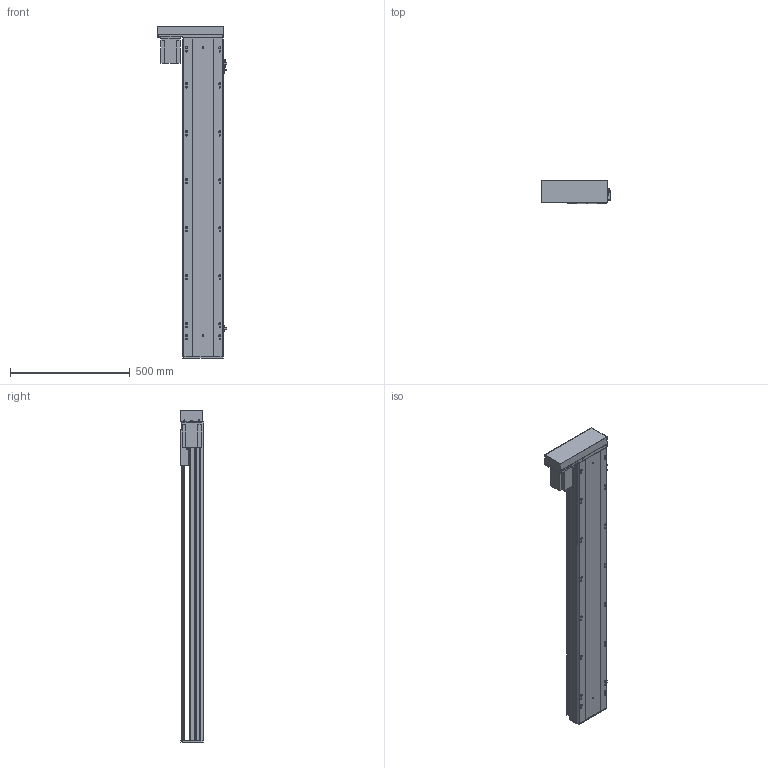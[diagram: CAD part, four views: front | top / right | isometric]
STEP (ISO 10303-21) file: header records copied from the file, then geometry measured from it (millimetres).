
FILE_DESCRIPTION (( 'STEP AP203' ), '1' );
FILE_NAME ('Y170-D10-S1100-BL-P750W.STEP', '2020-01-19T23:10:59', ( '微软用户' ), ( '微软中国' ), 'SwSTEP 2.0', 'SolidWorks 2017', '' );
FILE_SCHEMA (( 'CONFIG_CONTROL_DESIGN' ));
Length unit declared in the file: millimetre
Products named in the file (12): Y170-D10-S1100-BL-P750W; 170--掛极-BR; Y170-BL-P750W楊擘啣; 侂狟750W; EGH20賑輸_蕼偞; Y雄赽釱-耜蚾; Y-BL.BR-俋欶; Y170耜裔--準---; Y170-陔遴奻裔-BR; YD-Y100-135-新外置传感挡片(通用）; Y--BL蟀諉啣-陔遴-; Y100-135俋离換覜ん
Assembly tree (14 placements, depth 2):
  Y170-D10-S1100-BL-P750W
    Y170耜裔--準---
    YD-Y100-135-新外置传感挡片(通用）
    Y100-135俋离換覜ん  x3
    170--掛极-BR
    Y170-BL-P750W楊擘啣
    侂狟750W
    EGH20賑輸_蕼偞  x2
    Y雄赽釱-耜蚾
    Y-BL.BR-俋欶
    Y170-陔遴奻裔-BR
    Y--BL蟀諉啣-陔遴-
Bounding box: 289 x 97 x 1383.5 mm (x, y, z)
Volume: 6452316.5 mm3; surface area: 2248010.7 mm2
Topology: 14 solids, 14 shells, 945 faces, 2690 edges, 1776 vertices
Faces by surface type: cylinder 486, plane 443, cone 16
Entity records: 30250 total; most frequent: CARTESIAN_POINT 5454, DIRECTION 4988, ORIENTED_EDGE 4876, EDGE_CURVE 2438, AXIS2_PLACEMENT_3D 1778, VERTEX_POINT 1620, LINE 1432, VECTOR 1432
